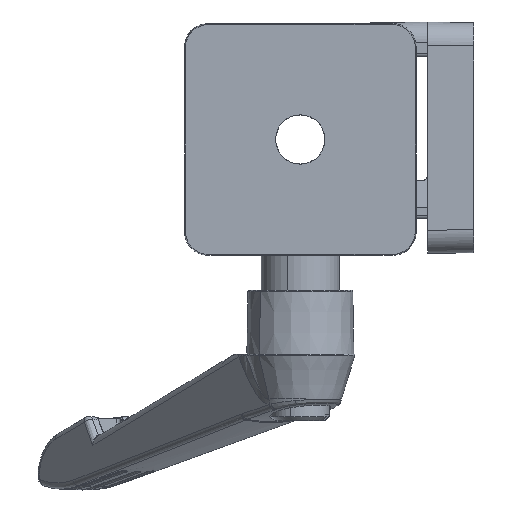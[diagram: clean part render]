
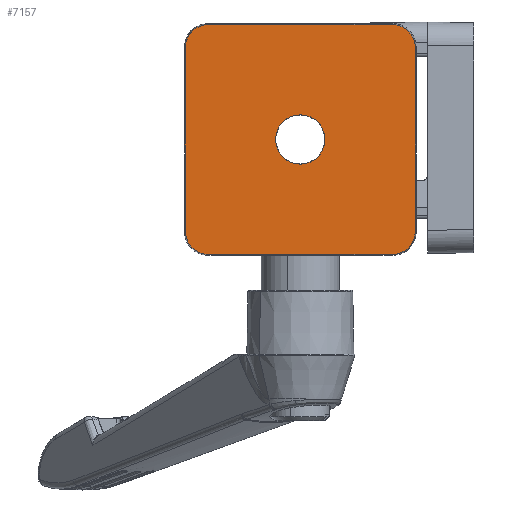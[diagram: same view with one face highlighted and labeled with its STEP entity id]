
A CAD part, left-side view. The second image highlights one B-rep face of the part: STEP entity #7157.
In plain terms, the highlighted planar face has unit normal (-1, 0, 0) as drawn and (0, -1, 0) by its records, which use the part's own axes.
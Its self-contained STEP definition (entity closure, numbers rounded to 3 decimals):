
#11 = EDGE_LOOP ( 'NONE', ( #1553, #22396, #14117, #3280, #21791, #4832, #8204, #4510 ) ) ;
#702 = VERTEX_POINT ( 'NONE', #5619 ) ;
#785 = CARTESIAN_POINT ( 'NONE',  ( -19.86, -8., 18.204 ) ) ;
#952 = CARTESIAN_POINT ( 'NONE',  ( -18.204, -8., -19.86 ) ) ;
#1187 = CARTESIAN_POINT ( 'NONE',  ( -15.861, -8., 19.86 ) ) ;
#1191 = DIRECTION ( 'NONE',  ( 0., 0., 1. ) ) ;
#1298 = CARTESIAN_POINT ( 'NONE',  ( 19.86, -8., 15.861 ) ) ;
#1436 =( BOUNDED_CURVE ( )  B_SPLINE_CURVE ( 3, ( #14728, #17331, #20991, #15325 ),
 .UNSPECIFIED., .F., .F. ) 
 B_SPLINE_CURVE_WITH_KNOTS ( ( 4, 4 ),
 ( 5.498, 7.068 ),
 .UNSPECIFIED. ) 
 CURVE ( )  GEOMETRIC_REPRESENTATION_ITEM ( )  RATIONAL_B_SPLINE_CURVE ( ( 1., 0.805, 0.805, 1. ) ) 
 REPRESENTATION_ITEM ( '' )  );
#1553 = ORIENTED_EDGE ( 'NONE', *, *, #17438, .F. ) ;
#1696 = VERTEX_POINT ( 'NONE', #18172 ) ;
#1829 = FACE_BOUND ( 'NONE', #16467, .T. ) ;
#2121 = DIRECTION ( 'NONE',  ( 0., -1., 0. ) ) ;
#2214 = CARTESIAN_POINT ( 'NONE',  ( 15.861, -8., 19.86 ) ) ;
#2509 = EDGE_CURVE ( 'NONE', #10624, #21974, #22334, .T. ) ;
#2512 = DIRECTION ( 'NONE',  ( 0., 1., 0. ) ) ;
#3147 = LINE ( 'NONE', #16956, #5072 ) ;
#3252 = CARTESIAN_POINT ( 'NONE',  ( 19.86, -8., -15.861 ) ) ;
#3280 = ORIENTED_EDGE ( 'NONE', *, *, #18728, .F. ) ;
#3908 = CARTESIAN_POINT ( 'NONE',  ( -15.861, -8., -19.86 ) ) ;
#4417 = CARTESIAN_POINT ( 'NONE',  ( 19.86, -8., 25. ) ) ;
#4510 = ORIENTED_EDGE ( 'NONE', *, *, #2509, .F. ) ;
#4832 = ORIENTED_EDGE ( 'NONE', *, *, #14379, .F. ) ;
#5072 = VECTOR ( 'NONE', #20622, 1000. ) ;
#5576 = EDGE_CURVE ( 'NONE', #11065, #702, #16509, .T. ) ;
#5619 = CARTESIAN_POINT ( 'NONE',  ( -19.86, -8., -15.861 ) ) ;
#5919 = DIRECTION ( 'NONE',  ( 1., 0., 0. ) ) ;
#6613 = CARTESIAN_POINT ( 'NONE',  ( 18.204, -8., 19.86 ) ) ;
#6699 = CARTESIAN_POINT ( 'NONE',  ( 15.861, -8., -19.86 ) ) ;
#7157 = ADVANCED_FACE ( 'NONE', ( #1829, #9029 ), #8083, .F. ) ;
#7945 = AXIS2_PLACEMENT_3D ( 'NONE', #18300, #2121, #9318 ) ;
#8083 = PLANE ( 'NONE',  #16702 ) ;
#8097 = VERTEX_POINT ( 'NONE', #21321 ) ;
#8148 = VERTEX_POINT ( 'NONE', #3252 ) ;
#8167 = CARTESIAN_POINT ( 'NONE',  ( -19.86, -8., 25. ) ) ;
#8204 = ORIENTED_EDGE ( 'NONE', *, *, #20016, .F. ) ;
#8269 =( BOUNDED_CURVE ( )  B_SPLINE_CURVE ( 3, ( #21005, #6613, #10285, #1298 ),
 .UNSPECIFIED., .F., .F. ) 
 B_SPLINE_CURVE_WITH_KNOTS ( ( 4, 4 ),
 ( 5.498, 7.068 ),
 .UNSPECIFIED. ) 
 CURVE ( )  GEOMETRIC_REPRESENTATION_ITEM ( )  RATIONAL_B_SPLINE_CURVE ( ( 1., 0.805, 0.805, 1. ) ) 
 REPRESENTATION_ITEM ( '' )  );
#8278 = LINE ( 'NONE', #8167, #20010 ) ;
#8497 = CARTESIAN_POINT ( 'NONE',  ( -15.861, -8., -19.86 ) ) ;
#9029 = FACE_OUTER_BOUND ( 'NONE', #11, .T. ) ;
#9160 =( BOUNDED_CURVE ( )  B_SPLINE_CURVE ( 3, ( #22743, #785, #17077, #20725 ),
 .UNSPECIFIED., .F., .F. ) 
 B_SPLINE_CURVE_WITH_KNOTS ( ( 4, 4 ),
 ( 5.498, 7.068 ),
 .UNSPECIFIED. ) 
 CURVE ( )  GEOMETRIC_REPRESENTATION_ITEM ( )  RATIONAL_B_SPLINE_CURVE ( ( 1., 0.805, 0.805, 1. ) ) 
 REPRESENTATION_ITEM ( '' )  );
#9219 = DIRECTION ( 'NONE',  ( 0., -1., 0. ) ) ;
#9318 = DIRECTION ( 'NONE',  ( 0., 0., 1. ) ) ;
#9977 = CIRCLE ( 'NONE', #18986, 4.26 ) ;
#10276 = VERTEX_POINT ( 'NONE', #10435 ) ;
#10285 = CARTESIAN_POINT ( 'NONE',  ( 19.86, -8., 18.204 ) ) ;
#10435 = CARTESIAN_POINT ( 'NONE',  ( 0., -8., 4.26 ) ) ;
#10624 = VERTEX_POINT ( 'NONE', #1187 ) ;
#11065 = VERTEX_POINT ( 'NONE', #3908 ) ;
#11189 = EDGE_CURVE ( 'NONE', #702, #8097, #8278, .T. ) ;
#11480 = CARTESIAN_POINT ( 'NONE',  ( -25., -8., 19.86 ) ) ;
#12403 = ORIENTED_EDGE ( 'NONE', *, *, #16169, .F. ) ;
#12656 = DIRECTION ( 'NONE',  ( 0., 0., 1. ) ) ;
#13388 = CARTESIAN_POINT ( 'NONE',  ( -25., -8., 25. ) ) ;
#13661 = EDGE_CURVE ( 'NONE', #8148, #21092, #1436, .T. ) ;
#13746 = VERTEX_POINT ( 'NONE', #18852 ) ;
#14117 = ORIENTED_EDGE ( 'NONE', *, *, #5576, .F. ) ;
#14379 = EDGE_CURVE ( 'NONE', #13746, #8148, #16917, .T. ) ;
#14411 = CARTESIAN_POINT ( 'NONE',  ( 0., -8., 0. ) ) ;
#14728 = CARTESIAN_POINT ( 'NONE',  ( 19.86, -8., -15.861 ) ) ;
#15325 = CARTESIAN_POINT ( 'NONE',  ( 15.861, -8., -19.86 ) ) ;
#16169 = EDGE_CURVE ( 'NONE', #10276, #1696, #9977, .T. ) ;
#16467 = EDGE_LOOP ( 'NONE', ( #12403, #22805 ) ) ;
#16509 =( BOUNDED_CURVE ( )  B_SPLINE_CURVE ( 3, ( #8497, #952, #20890, #22544 ),
 .UNSPECIFIED., .F., .F. ) 
 B_SPLINE_CURVE_WITH_KNOTS ( ( 4, 4 ),
 ( 5.498, 7.068 ),
 .UNSPECIFIED. ) 
 CURVE ( )  GEOMETRIC_REPRESENTATION_ITEM ( )  RATIONAL_B_SPLINE_CURVE ( ( 1., 0.805, 0.805, 1. ) ) 
 REPRESENTATION_ITEM ( '' )  );
#16702 = AXIS2_PLACEMENT_3D ( 'NONE', #13388, #2512, #17034 ) ;
#16917 = LINE ( 'NONE', #4417, #22424 ) ;
#16956 = CARTESIAN_POINT ( 'NONE',  ( -25., -8., -19.86 ) ) ;
#17034 = DIRECTION ( 'NONE',  ( 0., 0., 1. ) ) ;
#17077 = CARTESIAN_POINT ( 'NONE',  ( -18.204, -8., 19.86 ) ) ;
#17331 = CARTESIAN_POINT ( 'NONE',  ( 19.86, -8., -18.204 ) ) ;
#17438 = EDGE_CURVE ( 'NONE', #8097, #10624, #9160, .T. ) ;
#18172 = CARTESIAN_POINT ( 'NONE',  ( 0., -8., -4.26 ) ) ;
#18300 = CARTESIAN_POINT ( 'NONE',  ( 0., -8., 0. ) ) ;
#18566 = DIRECTION ( 'NONE',  ( 0., 0., -1. ) ) ;
#18728 = EDGE_CURVE ( 'NONE', #21092, #11065, #3147, .T. ) ;
#18852 = CARTESIAN_POINT ( 'NONE',  ( 19.86, -8., 15.861 ) ) ;
#18986 = AXIS2_PLACEMENT_3D ( 'NONE', #14411, #9219, #12656 ) ;
#19624 = CIRCLE ( 'NONE', #7945, 4.26 ) ;
#19782 = EDGE_CURVE ( 'NONE', #1696, #10276, #19624, .T. ) ;
#20010 = VECTOR ( 'NONE', #1191, 1000. ) ;
#20016 = EDGE_CURVE ( 'NONE', #21974, #13746, #8269, .T. ) ;
#20622 = DIRECTION ( 'NONE',  ( -1., 0., 0. ) ) ;
#20725 = CARTESIAN_POINT ( 'NONE',  ( -15.861, -8., 19.86 ) ) ;
#20890 = CARTESIAN_POINT ( 'NONE',  ( -19.86, -8., -18.204 ) ) ;
#20991 = CARTESIAN_POINT ( 'NONE',  ( 18.204, -8., -19.86 ) ) ;
#21005 = CARTESIAN_POINT ( 'NONE',  ( 15.861, -8., 19.86 ) ) ;
#21092 = VERTEX_POINT ( 'NONE', #6699 ) ;
#21321 = CARTESIAN_POINT ( 'NONE',  ( -19.86, -8., 15.861 ) ) ;
#21791 = ORIENTED_EDGE ( 'NONE', *, *, #13661, .F. ) ;
#21974 = VERTEX_POINT ( 'NONE', #2214 ) ;
#22334 = LINE ( 'NONE', #11480, #23088 ) ;
#22396 = ORIENTED_EDGE ( 'NONE', *, *, #11189, .F. ) ;
#22424 = VECTOR ( 'NONE', #18566, 1000. ) ;
#22544 = CARTESIAN_POINT ( 'NONE',  ( -19.86, -8., -15.861 ) ) ;
#22743 = CARTESIAN_POINT ( 'NONE',  ( -19.86, -8., 15.861 ) ) ;
#22805 = ORIENTED_EDGE ( 'NONE', *, *, #19782, .F. ) ;
#23088 = VECTOR ( 'NONE', #5919, 1000. ) ;
